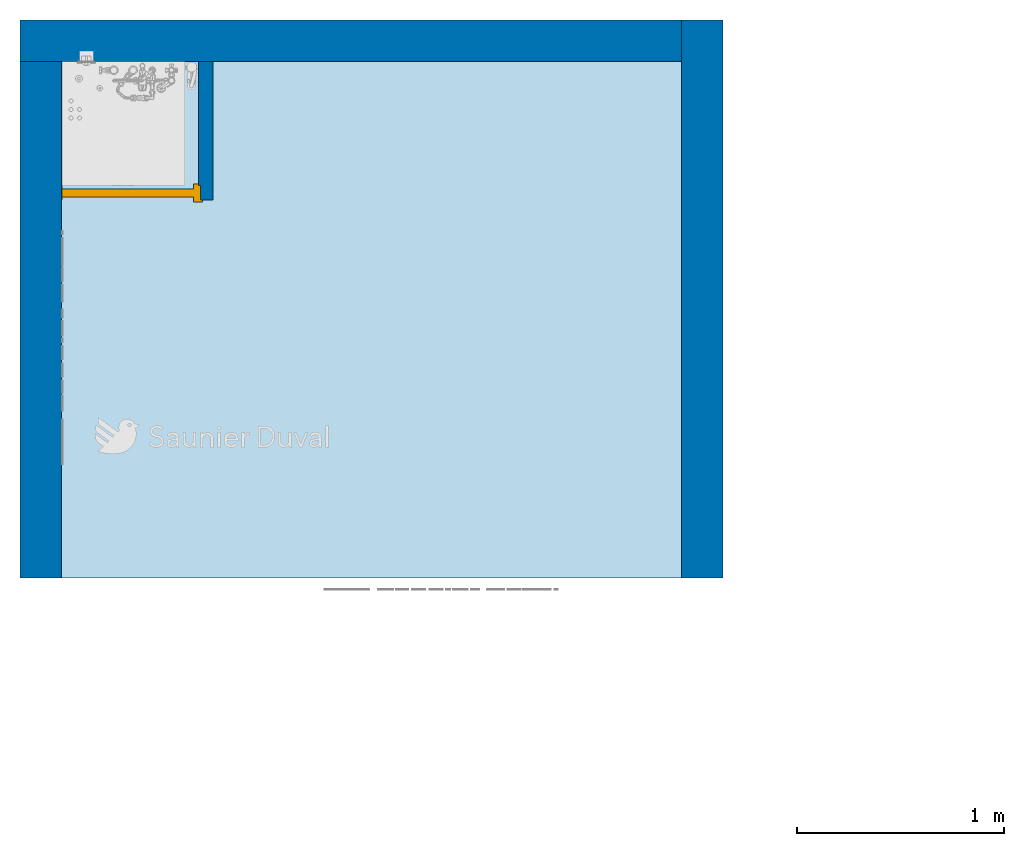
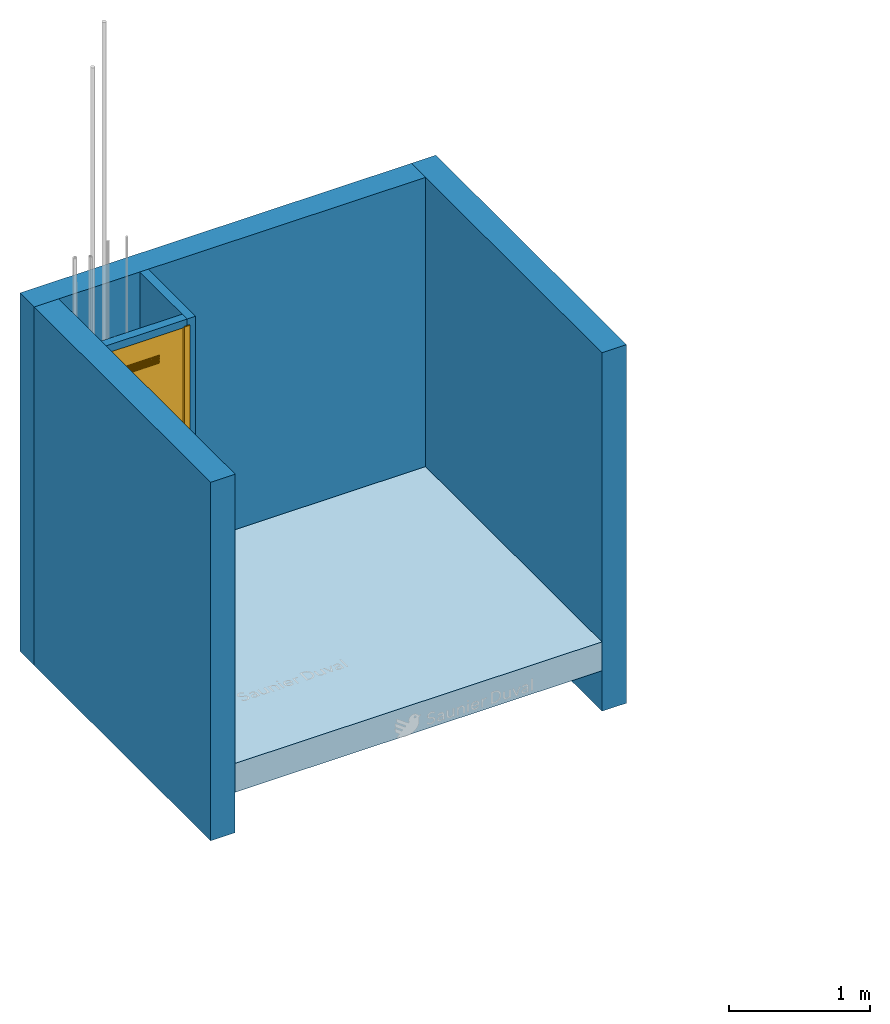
# One storey, part 1 of 8: 5 walls, 1 door, 1 slab, 4 openings.
"""IFC2X3 building model written with IfcOpenShell, lengths in metres."""

from ifc_helpers import new_model, entity, si_unit, converted_unit, derived_unit, direction, frame, frame_2d, origin, origin_2d_with_axis, place, context, subcontext, project, spatial, polyline, circle_curve, parameter, trimmed, segment, composite_curve, rectangle, outline, extrude, source, transform, mapped, material, material_list, layer, layer_set, layer_usage, type_object, type_shapes, element, fill, save


model = new_model("IFC2X3")

# Units and contexts
model_context = context("Model", 3, precision=1e-05, world=origin(), true_north=direction((6.123031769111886e-17, 1.0)))
body_context = subcontext(model_context, "Body", "Model", "MODEL_VIEW")
ifc_project = project(units=[si_unit("LENGTHUNIT", "METRE"), si_unit("AREAUNIT", "SQUARE_METRE"), si_unit("VOLUMEUNIT", "CUBIC_METRE"), converted_unit("PLANEANGLEUNIT", "DEGREE", entity("IfcPlaneAngleMeasure", 0.017453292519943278), si_unit("PLANEANGLEUNIT", "RADIAN"), dimensions=[0, 0, 0, 0, 0, 0, 0]), si_unit("MASSUNIT", "GRAM", prefix="KILO"), derived_unit("MASSDENSITYUNIT", [(si_unit("MASSUNIT", "GRAM", prefix="KILO"), 1), (si_unit("LENGTHUNIT", "METRE"), -3)]), derived_unit("IONCONCENTRATIONUNIT", [(si_unit("MASSUNIT", "GRAM", prefix="KILO"), 1), (si_unit("LENGTHUNIT", "METRE"), -3)]), derived_unit("MOMENTOFINERTIAUNIT", [(si_unit("LENGTHUNIT", "METRE"), 4)]), si_unit("TIMEUNIT", "SECOND"), si_unit("FREQUENCYUNIT", "HERTZ"), si_unit("THERMODYNAMICTEMPERATUREUNIT", "DEGREE_CELSIUS"), derived_unit("THERMALTRANSMITTANCEUNIT", [(si_unit("MASSUNIT", "GRAM", prefix="KILO"), 1), (si_unit("THERMODYNAMICTEMPERATUREUNIT", "KELVIN"), -1), (si_unit("TIMEUNIT", "SECOND"), -3)]), derived_unit("THERMALCONDUCTANCEUNIT", [(si_unit("MASSUNIT", "GRAM", prefix="KILO"), 1), (si_unit("THERMODYNAMICTEMPERATUREUNIT", "KELVIN"), -1), (si_unit("TIMEUNIT", "SECOND"), -3), (si_unit("LENGTHUNIT", "METRE"), 1)]), derived_unit("VOLUMETRICFLOWRATEUNIT", [(si_unit("LENGTHUNIT", "METRE", prefix="DECI"), 3), (si_unit("TIMEUNIT", "SECOND"), -1)]), derived_unit("MASSFLOWRATEUNIT", [(si_unit("MASSUNIT", "GRAM", prefix="KILO"), 1), (si_unit("TIMEUNIT", "SECOND"), -1)]), derived_unit("ROTATIONALFREQUENCYUNIT", [(si_unit("TIMEUNIT", "SECOND"), -1)]), si_unit("ELECTRICCURRENTUNIT", "AMPERE"), si_unit("ELECTRICVOLTAGEUNIT", "VOLT"), si_unit("POWERUNIT", "WATT"), si_unit("FORCEUNIT", "NEWTON", prefix="KILO"), si_unit("ILLUMINANCEUNIT", "LUX"), si_unit("LUMINOUSFLUXUNIT", "LUMEN"), si_unit("LUMINOUSINTENSITYUNIT", "CANDELA"), si_unit("ENERGYUNIT", "JOULE"), derived_unit("USERDEFINED", [(si_unit("MASSUNIT", "GRAM", prefix="KILO"), -1), (si_unit("LENGTHUNIT", "METRE"), -2), (si_unit("TIMEUNIT", "SECOND"), 3), (si_unit("LUMINOUSFLUXUNIT", "LUMEN"), 1)]), derived_unit("USERDEFINED", [(si_unit("MASSUNIT", "GRAM", prefix="KILO"), 1), (si_unit("TIMEUNIT", "SECOND"), -3), (si_unit("LENGTHUNIT", "METRE"), 3), (si_unit("ELECTRICCURRENTUNIT", "AMPERE"), -2)]), derived_unit("SOUNDPOWERUNIT", [(si_unit("MASSUNIT", "GRAM", prefix="KILO"), 1), (si_unit("TIMEUNIT", "SECOND"), -3), (si_unit("LENGTHUNIT", "METRE"), 2)]), derived_unit("SOUNDPRESSUREUNIT", [(si_unit("MASSUNIT", "GRAM", prefix="KILO"), 1), (si_unit("LENGTHUNIT", "METRE"), -1), (si_unit("TIMEUNIT", "SECOND"), -2)]), derived_unit("LINEARVELOCITYUNIT", [(si_unit("LENGTHUNIT", "METRE"), 1), (si_unit("TIMEUNIT", "SECOND"), -1)]), si_unit("PRESSUREUNIT", "PASCAL"), derived_unit("USERDEFINED", [(si_unit("MASSUNIT", "GRAM", prefix="KILO"), 1), (si_unit("LENGTHUNIT", "METRE"), -2), (si_unit("TIMEUNIT", "SECOND"), -2)]), derived_unit("LINEARFORCEUNIT", [(si_unit("MASSUNIT", "GRAM", prefix="KILO"), 1), (si_unit("TIMEUNIT", "SECOND"), -2)]), derived_unit("PLANARFORCEUNIT", [(si_unit("MASSUNIT", "GRAM", prefix="KILO"), 1), (si_unit("LENGTHUNIT", "METRE"), -1), (si_unit("TIMEUNIT", "SECOND"), -2)]), derived_unit("SPECIFICHEATCAPACITYUNIT", [(si_unit("THERMODYNAMICTEMPERATUREUNIT", "KELVIN"), -1), (si_unit("LENGTHUNIT", "METRE"), 2), (si_unit("TIMEUNIT", "SECOND"), -2)]), derived_unit("HEATFLUXDENSITYUNIT", [(si_unit("MASSUNIT", "GRAM", prefix="KILO"), 1), (si_unit("TIMEUNIT", "SECOND"), -3)]), derived_unit("HEATINGVALUEUNIT", [(si_unit("LENGTHUNIT", "METRE"), 2), (si_unit("TIMEUNIT", "SECOND"), -2)]), derived_unit("VAPORPERMEABILITYUNIT", [(si_unit("LENGTHUNIT", "METRE"), -1), (si_unit("TIMEUNIT", "SECOND"), 1)]), derived_unit("DYNAMICVISCOSITYUNIT", [(si_unit("MASSUNIT", "GRAM", prefix="KILO"), 1), (si_unit("TIMEUNIT", "SECOND"), -1), (si_unit("LENGTHUNIT", "METRE"), -1)]), derived_unit("THERMALEXPANSIONCOEFFICIENTUNIT", [(si_unit("THERMODYNAMICTEMPERATUREUNIT", "KELVIN"), -1)]), derived_unit("MODULUSOFELASTICITYUNIT", [(si_unit("MASSUNIT", "GRAM", prefix="KILO"), 1), (si_unit("LENGTHUNIT", "METRE"), -1), (si_unit("TIMEUNIT", "SECOND"), -2)]), derived_unit("ISOTHERMALMOISTURECAPACITYUNIT", [(si_unit("MASSUNIT", "GRAM", prefix="KILO"), -1), (si_unit("LENGTHUNIT", "METRE"), 3)]), derived_unit("MOISTUREDIFFUSIVITYUNIT", [(si_unit("TIMEUNIT", "SECOND"), -1), (si_unit("LENGTHUNIT", "METRE"), 2)]), derived_unit("MASSPERLENGTHUNIT", [(si_unit("MASSUNIT", "GRAM", prefix="KILO"), 1), (si_unit("LENGTHUNIT", "METRE"), -1)]), derived_unit("THERMALRESISTANCEUNIT", [(si_unit("MASSUNIT", "GRAM", prefix="KILO"), -1), (si_unit("TIMEUNIT", "SECOND"), 3), (si_unit("THERMODYNAMICTEMPERATUREUNIT", "KELVIN"), 1)]), derived_unit("ACCELERATIONUNIT", [(si_unit("LENGTHUNIT", "METRE"), 1), (si_unit("TIMEUNIT", "SECOND"), -2)]), derived_unit("ANGULARVELOCITYUNIT", [(si_unit("TIMEUNIT", "SECOND"), -1), (si_unit("PLANEANGLEUNIT", "RADIAN"), 1)]), derived_unit("LINEARSTIFFNESSUNIT", [(si_unit("MASSUNIT", "GRAM", prefix="KILO"), 1), (si_unit("TIMEUNIT", "SECOND"), -2)]), derived_unit("WARPINGCONSTANTUNIT", [(si_unit("LENGTHUNIT", "METRE"), 6)]), derived_unit("LINEARMOMENTUNIT", [(si_unit("MASSUNIT", "GRAM", prefix="KILO"), 1), (si_unit("LENGTHUNIT", "METRE"), 1), (si_unit("TIMEUNIT", "SECOND"), -2)]), derived_unit("TORQUEUNIT", [(si_unit("MASSUNIT", "GRAM", prefix="KILO"), 1), (si_unit("LENGTHUNIT", "METRE"), 2), (si_unit("TIMEUNIT", "SECOND"), -2)])], contexts=[model_context])

# Site, building, storey
site_placement = place(None, origin())
site = spatial("IfcSite", under=ifc_project, at=site_placement, Name="Default", CompositionType="ELEMENT")
building_placement = place(site_placement, origin())
building = spatial("IfcBuilding", under=site, at=building_placement, CompositionType="ELEMENT")
storey_placement = place(building_placement, origin())
storey = spatial("IfcBuildingStorey", under=building, at=storey_placement, Name="Niveau 0", CompositionType="ELEMENT", Elevation=-1.949160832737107e-14)

# Slab
ifc_material_1 = material(Name="Maçonnerie - Béton")
ifc_layer_1 = layer(ifc_material_1, 0.24999999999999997)
ifc_layer_set_1 = layer_set([ifc_layer_1], Name="Sol:Dalle en béton - 250 mm")
ifc_layer_usage_1 = layer_usage(ifc_layer_set_1, "AXIS3", "POSITIVE", 0.0)
slab_type = type_object("IfcSlabType", Name="Sol:Dalle en béton - 250 mm", PredefinedType="FLOOR", material=ifc_layer_set_1)
slab_placement = place(storey_placement, origin())
element("IfcSlab", 1, at=slab_placement, inside=storey, type_object=slab_type, material=ifc_layer_usage_1, Name="Sol:Dalle en béton - 250 mm", ObjectType="Sol:Dalle en béton - 250 mm", PredefinedType="FLOOR", context=body_context, shape_type="SweptSolid", body=[
    extrude(rectangle(XDim=2.499500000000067, YDim=2.998999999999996, at=frame_2d((6.661338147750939e-16, 1.1102230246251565e-15), x_axis=(1.0, 0.0))), frame((-7.30406522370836, 1.5997764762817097, 0.0), z_axis=(0.0, 0.0, -1.0), x_axis=(0.0, 1.0, 0.0)), (0.0, 0.0, 1.0), 0.24999999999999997),
])

# Wall
ifc_material_2 = material(Name="Mur par défaut")
ifc_layer_2 = layer(ifc_material_2, 0.2)
ifc_material_3 = material(Name="Color RGB 255-255-255")
ifc_layer_3 = layer(ifc_material_3, 0.0009999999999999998)
ifc_layer_set_2 = layer_set([ifc_layer_2, ifc_layer_3], Name="Mur de base:Générique - Ext. 200 mm")
ifc_layer_usage_2 = layer_usage(ifc_layer_set_2, "AXIS2", "NEGATIVE", 0.1005)
wall_type_1 = type_object("IfcWallType", Name="Mur de base:Générique - Ext. 200 mm", PredefinedType="STANDARD", material=ifc_layer_set_2)
wall_1_placement = place(storey_placement, frame((-5.70406522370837, 0.35002647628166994, -0.5999999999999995), z_axis=(0.0, 0.0, 1.0), x_axis=(0.0, 1.0, 0.0)))
element("IfcWallStandardCase", 2, at=wall_1_placement, inside=storey, type_object=wall_type_1, material=ifc_layer_usage_2, Name="Mur de base:Générique - Ext. 200 mm", ObjectType="Mur de base:Générique - Ext. 200 mm", context=body_context, shape_type="SweptSolid", body=[
    extrude(rectangle(XDim=2.7004999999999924, YDim=0.2009999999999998, at=frame_2d((1.3502499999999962, -1.8041124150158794e-16), x_axis=(-1.0, 0.0))), origin(), (0.0, 0.0, 1.0), 3.1000000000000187),
])

# Wall, opening
ifc_layer_usage_3 = layer_usage(ifc_layer_set_2, "AXIS2", "POSITIVE", -0.1005)
wall_2_placement = place(storey_placement, frame((-5.80456522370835, 2.9500264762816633, -0.6000000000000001), z_axis=(0.0, 0.0, 1.0), x_axis=(-1.0, 0.0, 0.0)))
wall_2 = element("IfcWallStandardCase", 3, at=wall_2_placement, inside=storey, type_object=wall_type_1, material=ifc_layer_usage_3, Name="Mur de base:Générique - Ext. 200 mm", ObjectType="Mur de base:Générique - Ext. 200 mm", context=body_context, shape_type="SweptSolid", body=[
    extrude(rectangle(XDim=3.2, YDim=0.2009999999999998, at=frame_2d((1.6, 3.469446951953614e-17), x_axis=(-1.0, 0.0))), origin(), (0.0, 0.0, 1.0), 3.100000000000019),
])
opening_1_placement = place(wall_2_placement, origin())
element("IfcOpeningElement", 4, at=opening_1_placement, cuts=wall_2, Name="Mur de base:Générique - Ext. 200 mm", ObjectType="Recess", context=body_context, shape_type="SweptSolid", body=[
    extrude(outline(composite_curve([segment(trimmed(circle_curve(origin_2d_with_axis(), 0.03400029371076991), [parameter(269.99999999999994)], [parameter(90.00000000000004)], True, "PARAMETER"), True, "CONTINUOUS"), segment(trimmed(circle_curve(frame_2d((-0.0006000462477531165, 0.0), x_axis=(1.0, 0.0)), 0.03400558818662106), [parameter(88.98893376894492)], [parameter(271.01106623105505)], True, "PARAMETER"), True, "CONTINUOUS")], self_intersect=False)), frame((2.8788120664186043, 0.04549999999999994, 2.650564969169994), z_axis=(0.0, 1.0, 0.0), x_axis=(1.0, 0.0, 0.0)), (0.0, 0.0, 1.0), 0.05499999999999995),
])

ifc_layer_usage_4 = layer_usage(ifc_layer_set_2, "AXIS2", "POSITIVE", -0.1005)
wall_3_placement = place(storey_placement, frame((-8.90406522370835, 2.8495264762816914, -0.5999999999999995), z_axis=(0.0, 0.0, 1.0), x_axis=(0.0, -1.0, 0.0)))
wall_3 = element("IfcWallStandardCase", 5, at=wall_3_placement, inside=storey, type_object=wall_type_1, material=ifc_layer_usage_4, Name="Mur de base:Générique - Ext. 200 mm", ObjectType="Mur de base:Générique - Ext. 200 mm", context=body_context, shape_type="SweptSolid", body=[
    extrude(rectangle(XDim=2.4995000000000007, YDim=0.2009999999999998, at=frame_2d((1.2497500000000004, 3.400058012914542e-16), x_axis=(-1.0, 0.0))), origin(), (0.0, 0.0, 1.0), 3.1000000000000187),
])
opening_2_placement = place(wall_3_placement, origin())
element("IfcOpeningElement", 6, at=opening_2_placement, cuts=wall_3, Name="Mur de base:Générique - Ext. 200 mm", ObjectType="Opening", context=body_context, shape_type="SweptSolid", body=[
    extrude(rectangle(XDim=2.435000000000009, YDim=0.07000000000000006, at=frame_2d((-1.3530843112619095e-16, 0.0), x_axis=(0.0, 1.0))), frame((0.635750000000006, 0.1031036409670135, 1.8175000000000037), z_axis=(0.0, 1.0, 0.0), x_axis=(1.0, 0.0, 0.0)), (0.0, 0.0, 1.0), 0.6699999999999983),
])

ifc_layer_4 = layer(ifc_material_2, 0.07)
ifc_layer_set_3 = layer_set([ifc_layer_4], Name="Mur de base:Générique - Int. 70 mm")
ifc_layer_usage_5 = layer_usage(ifc_layer_set_3, "AXIS2", "NEGATIVE", 0.034999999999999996)
wall_type_2 = type_object("IfcWallType", Name="Mur de base:Générique - Int. 70 mm", PredefinedType="STANDARD", material=ifc_layer_set_3)
wall_4_placement = place(storey_placement, frame((-8.10596158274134, 2.849526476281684, 0.0), z_axis=(0.0, 0.0, 1.0), x_axis=(0.0, -1.0, 0.0)))
wall_4 = element("IfcWallStandardCase", 7, at=wall_4_placement, inside=storey, type_object=wall_type_2, material=ifc_layer_usage_5, Name="Mur de base:Générique - Int. 70 mm", ObjectType="Mur de base:Générique - Int. 70 mm", context=body_context, shape_type="SweptSolid", body=[
    extrude(rectangle(XDim=0.6707500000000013, YDim=0.06999999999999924, at=frame_2d((0.33537500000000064, -5.898059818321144e-17), x_axis=(-1.0, 0.0))), origin(), (0.0, 0.0, 1.0), 2.500000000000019),
])
opening_3_placement = place(wall_4_placement, origin())
element("IfcOpeningElement", 8, at=opening_3_placement, cuts=wall_4, Name="Mur de base:Générique - Int. 70 mm", ObjectType="Opening", context=body_context, shape_type="SweptSolid", body=[
    extrude(rectangle(XDim=2.435000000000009, YDim=0.07000000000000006, at=frame_2d((-1.3530843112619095e-16, 0.0), x_axis=(0.0, 1.0))), frame((0.6357500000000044, -0.694999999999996, 1.2175000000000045), z_axis=(0.0, 1.0, 0.0), x_axis=(1.0, 0.0, 0.0)), (0.0, 0.0, 1.0), 0.6699999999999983),
])

# Wall, opening, door
ifc_layer_usage_6 = layer_usage(ifc_layer_set_3, "AXIS2", "NEGATIVE", 0.034999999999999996)
wall_5_placement = place(storey_placement, frame((-8.140961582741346, 2.2137764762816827, 0.0), z_axis=(0.0, 0.0, 1.0), x_axis=(-1.0, 0.0, 0.0)))
wall_5 = element("IfcWallStandardCase", 9, at=wall_5_placement, inside=storey, type_object=wall_type_2, material=ifc_layer_usage_6, Name="Mur de base:Générique - Int. 70 mm", ObjectType="Mur de base:Générique - Int. 70 mm", context=body_context, shape_type="SweptSolid", body=[
    extrude(rectangle(XDim=0.6626036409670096, YDim=0.06999999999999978, at=frame_2d((0.3313018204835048, -4.163336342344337e-17), x_axis=(-1.0, 0.0))), origin(), (0.0, 0.0, 1.0), 2.500000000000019),
])
opening_4_placement = place(wall_5_placement, frame((-0.010000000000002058, -0.03499999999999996, 0.0)))
opening_4 = element("IfcOpeningElement", 10, at=opening_4_placement, cuts=wall_5, Name="Va et vient simple - Panneau plein_GM:0.55m x 2.40m:1", ObjectType="Opening", context=body_context, shape_type="SweptSolid", body=[
    extrude(rectangle(XDim=2.435000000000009, YDim=0.6699999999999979, at=frame_2d((1.2175000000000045, 0.33499999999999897), x_axis=(1.0, 0.0))), frame((0.0, 0.0, 0.0), z_axis=(0.0, 1.0, 0.0), x_axis=(0.0, 0.0, 1.0)), (0.0, 0.0, 1.0), 0.06999999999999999),
])
ifc_material_4 = material(Name="Plastique, blanc opaque")
ifc_material_5 = material(Name="Verre")
ifc_material_list = material_list([ifc_material_4, ifc_material_5])
door_style = type_object("IfcDoorStyle", Name="Va et vient simple - Panneau plein_GM:0.55m x 2.40m", ConstructionType="NOTDEFINED", OperationType="DOUBLE_SWING_RIGHT", ParameterTakesPrecedence=False, Sizeable=False, material=ifc_material_list)
shared_shape = source(origin(), body_context, "Body", "SweptSolid", [
    extrude(outline(polyline([(0.016666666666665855, 0.034999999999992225), (0.026666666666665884, 0.034999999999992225), (0.026666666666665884, 0.0429999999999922), (-0.018333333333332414, 0.0429999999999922), (-0.018333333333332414, 0.019999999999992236), (-0.03333333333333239, 0.019999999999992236), (-0.03333333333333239, -0.020000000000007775), (-0.018333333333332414, -0.020000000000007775), (-0.018333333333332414, -0.042999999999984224), (0.026666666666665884, -0.042999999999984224), (0.026666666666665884, -0.034999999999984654), (0.016666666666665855, -0.034999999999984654), (0.016666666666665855, 0.034999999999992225)])), frame((0.016666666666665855, 0.034999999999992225, 0.0), z_axis=(0.0, 0.0, 1.0), x_axis=(-1.0, 0.0, 0.0)), (0.0, 0.0, 1.0), 2.4450000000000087),
    extrude(outline(polyline([(-1.2175000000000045, -0.3099999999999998), (1.2175000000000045, -0.3099999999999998), (1.2175000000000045, 0.3099999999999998), (-1.2175000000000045, 0.3099999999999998), (-1.2175000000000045, -0.3099999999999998)]), holes=[polyline([(-1.0319836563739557, 0.06949999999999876), (-1.0394836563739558, 0.06949999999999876), (-1.0394836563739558, 0.13449999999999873), (-1.0319836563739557, 0.13449999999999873), (-1.0319836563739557, 0.06949999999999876)]), polyline([(-1.0214836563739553, 0.06949999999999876), (-1.0289836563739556, 0.06949999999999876), (-1.0289836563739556, 0.13449999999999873), (-1.0214836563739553, 0.13449999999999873), (-1.0214836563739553, 0.06949999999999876)]), polyline([(-1.010983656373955, 0.06949999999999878), (-1.0184836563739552, 0.06949999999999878), (-1.0184836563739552, 0.13449999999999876), (-1.010983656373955, 0.13449999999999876), (-1.010983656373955, 0.06949999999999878)]), polyline([(-1.0004836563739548, 0.06949999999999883), (-1.0079836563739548, 0.06949999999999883), (-1.0079836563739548, 0.1344999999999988), (-1.0004836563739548, 0.1344999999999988), (-1.0004836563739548, 0.06949999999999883)]), polyline([(-0.9899836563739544, 0.06949999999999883), (-0.9974836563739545, 0.06949999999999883), (-0.9974836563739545, 0.1344999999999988), (-0.9899836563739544, 0.1344999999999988), (-0.9899836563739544, 0.06949999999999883)]), polyline([(-0.9794836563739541, 0.06949999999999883), (-0.9869836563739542, 0.06949999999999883), (-0.9869836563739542, 0.1344999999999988), (-0.9794836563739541, 0.1344999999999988), (-0.9794836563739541, 0.06949999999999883)]), polyline([(-0.9689836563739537, 0.06949999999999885), (-0.976483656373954, 0.06949999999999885), (-0.976483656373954, 0.13449999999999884), (-0.9689836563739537, 0.13449999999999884), (-0.9689836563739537, 0.06949999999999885)]), polyline([(-1.0319836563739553, 0.0014999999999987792), (-1.0394836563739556, 0.0014999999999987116), (-1.0394836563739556, 0.06649999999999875), (-1.0319836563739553, 0.06649999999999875), (-1.0319836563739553, 0.0014999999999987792)]), polyline([(-1.021483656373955, 0.0014999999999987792), (-1.0289836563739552, 0.0014999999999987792), (-1.0289836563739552, 0.06649999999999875), (-1.021483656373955, 0.06649999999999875), (-1.021483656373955, 0.0014999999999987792)]), polyline([(-1.0109836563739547, 0.0014999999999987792), (-1.018483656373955, 0.0014999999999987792), (-1.018483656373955, 0.06649999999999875), (-1.0109836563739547, 0.06649999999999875), (-1.0109836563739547, 0.0014999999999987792)]), polyline([(-1.0004836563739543, 0.0014999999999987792), (-1.0079836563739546, 0.0014999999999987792), (-1.0079836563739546, 0.06649999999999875), (-1.0004836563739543, 0.06649999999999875), (-1.0004836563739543, 0.0014999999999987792)]), polyline([(-0.9899836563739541, 0.0014999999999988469), (-0.9974836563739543, 0.0014999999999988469), (-0.9974836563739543, 0.0664999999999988), (-0.9899836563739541, 0.0664999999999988), (-0.9899836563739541, 0.0014999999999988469)]), polyline([(-0.9794836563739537, 0.0014999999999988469), (-0.9869836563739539, 0.0014999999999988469), (-0.9869836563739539, 0.06649999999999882), (-0.9794836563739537, 0.06649999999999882), (-0.9794836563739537, 0.0014999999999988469)]), polyline([(-0.9689836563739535, 0.0014999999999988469), (-0.9764836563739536, 0.0014999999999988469), (-0.9764836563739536, 0.06649999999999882), (-0.9689836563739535, 0.06649999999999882), (-0.9689836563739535, 0.0014999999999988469)]), polyline([(-1.031983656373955, -0.06650000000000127), (-1.0394836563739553, -0.06650000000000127), (-1.0394836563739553, -0.0015000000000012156), (-1.031983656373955, -0.0015000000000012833), (-1.031983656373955, -0.06650000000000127)]), polyline([(-1.0214836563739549, -0.06650000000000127), (-1.028983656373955, -0.06650000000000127), (-1.028983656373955, -0.0015000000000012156), (-1.0214836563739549, -0.0015000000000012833), (-1.0214836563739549, -0.06650000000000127)]), polyline([(-1.0109836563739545, -0.0665000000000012), (-1.0184836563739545, -0.0665000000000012), (-1.0184836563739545, -0.0015000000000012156), (-1.0109836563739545, -0.0015000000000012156), (-1.0109836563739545, -0.0665000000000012)]), polyline([(-1.000483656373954, -0.0665000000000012), (-1.0079836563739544, -0.0665000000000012), (-1.0079836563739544, -0.0015000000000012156), (-1.000483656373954, -0.0015000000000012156), (-1.000483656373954, -0.0665000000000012)]), polyline([(-0.9899836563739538, -0.0665000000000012), (-0.997483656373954, -0.0665000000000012), (-0.997483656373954, -0.0015000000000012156), (-0.9899836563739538, -0.0015000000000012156), (-0.9899836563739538, -0.0665000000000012)]), polyline([(-0.9794836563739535, -0.06650000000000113), (-0.9869836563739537, -0.06650000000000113), (-0.9869836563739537, -0.001500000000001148), (-0.9794836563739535, -0.001500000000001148), (-0.9794836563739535, -0.06650000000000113)]), polyline([(-0.9689836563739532, -0.06650000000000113), (-0.9764836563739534, -0.06650000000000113), (-0.9764836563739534, -0.001500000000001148), (-0.9689836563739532, -0.001500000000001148), (-0.9689836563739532, -0.06650000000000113)]), polyline([(-1.0319836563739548, -0.13450000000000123), (-1.0394836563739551, -0.13450000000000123), (-1.0394836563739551, -0.06950000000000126), (-1.0319836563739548, -0.06950000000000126), (-1.0319836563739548, -0.13450000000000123)]), polyline([(-1.0214836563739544, -0.13450000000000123), (-1.0289836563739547, -0.13450000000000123), (-1.0289836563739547, -0.06950000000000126), (-1.0214836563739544, -0.06950000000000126), (-1.0214836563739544, -0.13450000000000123)]), polyline([(-1.0109836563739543, -0.13450000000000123), (-1.0184836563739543, -0.13450000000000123), (-1.0184836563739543, -0.06950000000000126), (-1.0109836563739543, -0.06950000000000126), (-1.0109836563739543, -0.13450000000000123)]), polyline([(-1.0004836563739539, -0.13450000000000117), (-1.0079836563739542, -0.13450000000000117), (-1.0079836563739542, -0.06950000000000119), (-1.0004836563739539, -0.06950000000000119), (-1.0004836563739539, -0.13450000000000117)]), polyline([(-0.9899836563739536, -0.13450000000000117), (-0.9974836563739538, -0.13450000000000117), (-0.9974836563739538, -0.06950000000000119), (-0.9899836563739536, -0.06950000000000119), (-0.9899836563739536, -0.13450000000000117)]), polyline([(-0.9794836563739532, -0.13450000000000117), (-0.9869836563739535, -0.13450000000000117), (-0.9869836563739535, -0.06950000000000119), (-0.9794836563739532, -0.06950000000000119), (-0.9794836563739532, -0.13450000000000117)]), polyline([(-0.9689836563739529, -0.1345000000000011), (-0.9764836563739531, -0.1345000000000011), (-0.9764836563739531, -0.06950000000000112), (-0.9689836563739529, -0.06950000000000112), (-0.9689836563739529, -0.1345000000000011)]), polyline([(1.0545000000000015, 0.06949999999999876), (1.0470000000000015, 0.06949999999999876), (1.0470000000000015, 0.13449999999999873), (1.0545000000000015, 0.13449999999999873), (1.0545000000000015, 0.06949999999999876)]), polyline([(1.065000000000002, 0.06949999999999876), (1.0575000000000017, 0.06949999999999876), (1.0575000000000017, 0.13449999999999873), (1.065000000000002, 0.13449999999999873), (1.065000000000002, 0.06949999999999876)]), polyline([(1.0755000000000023, 0.06949999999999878), (1.068000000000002, 0.06949999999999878), (1.068000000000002, 0.13449999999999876), (1.0755000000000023, 0.13449999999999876), (1.0755000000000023, 0.06949999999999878)]), polyline([(1.0860000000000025, 0.06949999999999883), (1.0785000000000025, 0.06949999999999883), (1.0785000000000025, 0.1344999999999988), (1.0860000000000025, 0.1344999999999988), (1.0860000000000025, 0.06949999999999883)]), polyline([(1.096500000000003, 0.06949999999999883), (1.0890000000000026, 0.06949999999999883), (1.0890000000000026, 0.1344999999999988), (1.096500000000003, 0.1344999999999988), (1.096500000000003, 0.06949999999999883)]), polyline([(1.1070000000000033, 0.06949999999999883), (1.099500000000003, 0.06949999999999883), (1.099500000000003, 0.1344999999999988), (1.1070000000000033, 0.1344999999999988), (1.1070000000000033, 0.06949999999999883)]), polyline([(1.1175000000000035, 0.06949999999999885), (1.1100000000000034, 0.06949999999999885), (1.1100000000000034, 0.13449999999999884), (1.1175000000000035, 0.13449999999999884), (1.1175000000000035, 0.06949999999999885)]), polyline([(1.054500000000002, 0.0014999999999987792), (1.0470000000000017, 0.0014999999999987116), (1.0470000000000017, 0.06649999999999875), (1.054500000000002, 0.06649999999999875), (1.054500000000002, 0.0014999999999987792)]), polyline([(1.0650000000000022, 0.0014999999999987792), (1.057500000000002, 0.0014999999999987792), (1.057500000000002, 0.06649999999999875), (1.0650000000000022, 0.06649999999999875), (1.0650000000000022, 0.0014999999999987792)]), polyline([(1.0755000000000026, 0.0014999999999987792), (1.0680000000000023, 0.0014999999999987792), (1.0680000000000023, 0.06649999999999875), (1.0755000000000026, 0.06649999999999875), (1.0755000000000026, 0.0014999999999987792)]), polyline([(1.086000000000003, 0.0014999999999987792), (1.0785000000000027, 0.0014999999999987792), (1.0785000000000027, 0.06649999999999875), (1.086000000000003, 0.06649999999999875), (1.086000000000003, 0.0014999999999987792)]), polyline([(1.0965000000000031, 0.0014999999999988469), (1.089000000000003, 0.0014999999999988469), (1.089000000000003, 0.0664999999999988), (1.0965000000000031, 0.0664999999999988), (1.0965000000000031, 0.0014999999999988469)]), polyline([(1.1070000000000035, 0.0014999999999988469), (1.0995000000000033, 0.0014999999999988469), (1.0995000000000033, 0.06649999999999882), (1.1070000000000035, 0.06649999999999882), (1.1070000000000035, 0.0014999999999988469)]), polyline([(1.117500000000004, 0.0014999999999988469), (1.1100000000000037, 0.0014999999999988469), (1.1100000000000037, 0.06649999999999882), (1.117500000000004, 0.06649999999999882), (1.117500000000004, 0.0014999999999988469)]), polyline([(1.0545000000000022, -0.06650000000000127), (1.047000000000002, -0.06650000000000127), (1.047000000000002, -0.0015000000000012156), (1.0545000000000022, -0.0015000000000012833), (1.0545000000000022, -0.06650000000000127)]), polyline([(1.0650000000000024, -0.06650000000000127), (1.0575000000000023, -0.06650000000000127), (1.0575000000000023, -0.0015000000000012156), (1.0650000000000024, -0.0015000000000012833), (1.0650000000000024, -0.06650000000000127)]), polyline([(1.0755000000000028, -0.0665000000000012), (1.0680000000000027, -0.0665000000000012), (1.0680000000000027, -0.0015000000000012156), (1.0755000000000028, -0.0015000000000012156), (1.0755000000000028, -0.0665000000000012)]), polyline([(1.0860000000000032, -0.0665000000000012), (1.078500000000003, -0.0665000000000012), (1.078500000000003, -0.0015000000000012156), (1.0860000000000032, -0.0015000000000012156), (1.0860000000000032, -0.0665000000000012)]), polyline([(1.0965000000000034, -0.0665000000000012), (1.0890000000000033, -0.0665000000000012), (1.0890000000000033, -0.0015000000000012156), (1.0965000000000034, -0.0015000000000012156), (1.0965000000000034, -0.0665000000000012)]), polyline([(1.1070000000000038, -0.06650000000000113), (1.0995000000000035, -0.06650000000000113), (1.0995000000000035, -0.001500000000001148), (1.1070000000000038, -0.001500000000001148), (1.1070000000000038, -0.06650000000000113)]), polyline([(1.1175000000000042, -0.06650000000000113), (1.1100000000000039, -0.06650000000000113), (1.1100000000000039, -0.001500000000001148), (1.1175000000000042, -0.001500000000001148), (1.1175000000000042, -0.06650000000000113)]), polyline([(1.0545000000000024, -0.13450000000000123), (1.0470000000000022, -0.13450000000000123), (1.0470000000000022, -0.06950000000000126), (1.0545000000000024, -0.06950000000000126), (1.0545000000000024, -0.13450000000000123)]), polyline([(1.0650000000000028, -0.13450000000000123), (1.0575000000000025, -0.13450000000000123), (1.0575000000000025, -0.06950000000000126), (1.0650000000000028, -0.06950000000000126), (1.0650000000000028, -0.13450000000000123)]), polyline([(1.075500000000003, -0.13450000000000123), (1.068000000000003, -0.13450000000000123), (1.068000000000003, -0.06950000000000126), (1.075500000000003, -0.06950000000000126), (1.075500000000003, -0.13450000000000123)]), polyline([(1.0860000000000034, -0.13450000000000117), (1.0785000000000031, -0.13450000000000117), (1.0785000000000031, -0.06950000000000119), (1.0860000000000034, -0.06950000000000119), (1.0860000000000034, -0.13450000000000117)]), polyline([(1.0965000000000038, -0.13450000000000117), (1.0890000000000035, -0.13450000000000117), (1.0890000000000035, -0.06950000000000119), (1.0965000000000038, -0.06950000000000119), (1.0965000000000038, -0.13450000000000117)]), polyline([(1.107000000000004, -0.13450000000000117), (1.099500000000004, -0.13450000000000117), (1.099500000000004, -0.06950000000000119), (1.107000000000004, -0.06950000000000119), (1.107000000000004, -0.13450000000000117)]), polyline([(1.1175000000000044, -0.1345000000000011), (1.110000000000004, -0.1345000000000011), (1.110000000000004, -0.06950000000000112), (1.1175000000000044, -0.06950000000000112), (1.1175000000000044, -0.1345000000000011)])]), frame((0.35999999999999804, 0.01499999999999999, 1.2175000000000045), z_axis=(0.0, 1.0, 0.0), x_axis=(0.0, 0.0, -1.0)), (0.0, 0.0, 1.0), 0.04000000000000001),
])
type_shapes(door_style, [shared_shape])
door_placement = place(opening_4_placement, origin())
door = element("IfcDoor", 11, at=door_placement, inside=storey, type_object=door_style, material=ifc_material_list, Name="Va et vient simple - Panneau plein_GM:0.55m x 2.40m", ObjectType="Va et vient simple - Panneau plein_GM:0.55m x 2.40m", OverallHeight=2.435000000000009, OverallWidth=0.6699999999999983, context=body_context, shape_type="MappedRepresentation", body=[
    mapped(shared_shape, transform((0.0, 0.0, 0.0), scale=1.0)),
])
fill(opening_4, door)

save(model, "model.ifc")
